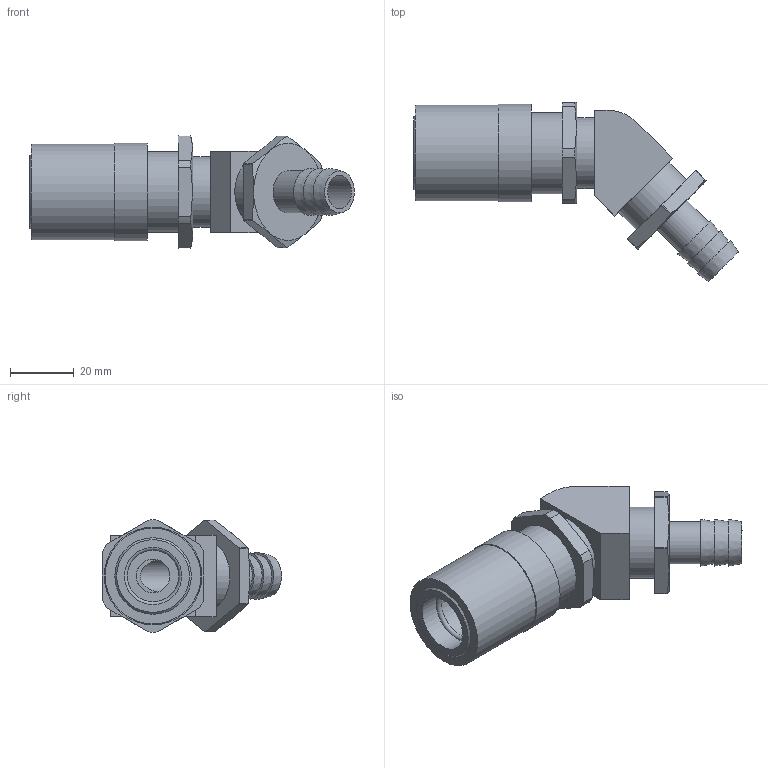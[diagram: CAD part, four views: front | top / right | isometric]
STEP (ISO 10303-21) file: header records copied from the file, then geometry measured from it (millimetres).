
FILE_DESCRIPTION(/* description */ ('STEP AP214'),/* implementation_level */ '2;1');
FILE_NAME(/* name */ 'JS-524-V',/* time_stamp */ '2024-12-19T08:59:06+01:00',/* author */ ('License CC BY-ND 4.0'),/* organization */ ('CADENAS'),/* preprocessor_version */ 'ST-DEVELOPER v19.3',/* originating_system */ 'PARTsolutions',/* authorisation */ ' ');
FILE_SCHEMA (('AUTOMOTIVE_DESIGN {1 0 10303 214 3 1 1}'));
Length unit declared in the file: inch
Products named in the file (1): JS-524-V
Bounding box: 101.83 x 56.16 x 35.18 mm (x, y, z)
Volume: 47030.8 mm3; surface area: 16857.4 mm2
Topology: 1 solids, 1 shells, 71 faces, 158 edges, 103 vertices
Faces by surface type: plane 35, cylinder 24, cone 11, torus 1
Full cylindrical faces by diameter (mm): 10.566 x2, 13.208 x1, 17.983 x2, 22.225 x2, 25.4 x1, 29.972 x1, 30.571 x1
Entity records: 1967 total; most frequent: CARTESIAN_POINT 417, DIRECTION 326, ORIENTED_EDGE 276, EDGE_CURVE 138, AXIS2_PLACEMENT_3D 137, EDGE_LOOP 103, FACE_BOUND 103, VERTEX_POINT 99
